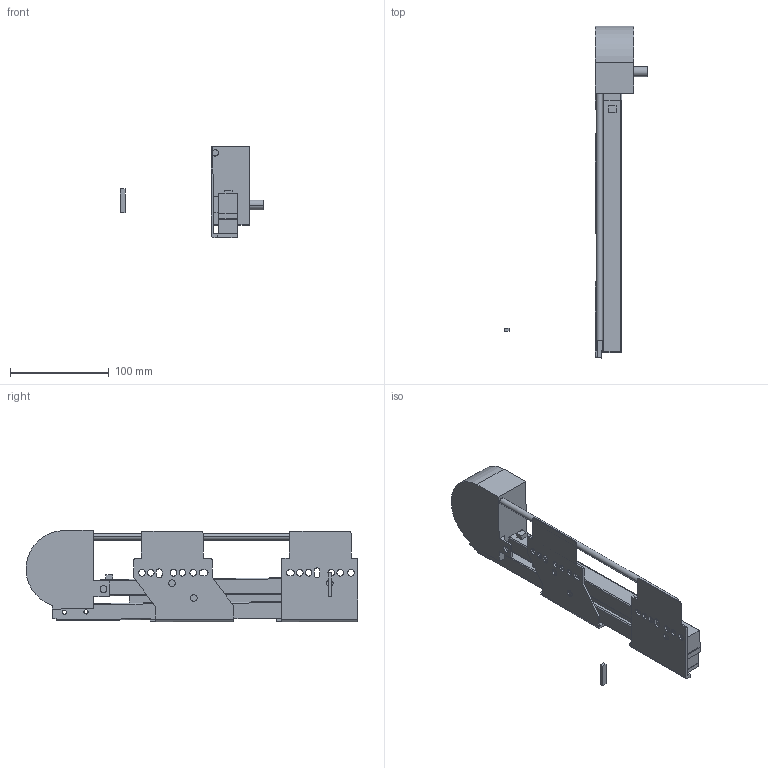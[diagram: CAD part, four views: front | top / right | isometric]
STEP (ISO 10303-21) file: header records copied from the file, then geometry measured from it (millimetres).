
FILE_DESCRIPTION (( 'STEP AP214' ), '1' );
FILE_NAME ('_IMOS_NOVA-Pro_Sensotronic_KS_P904_LI_NL-270_EB29mm.step', '2010-07-23T08:20:04', ( 'grass' ), ( '' ), 'SwSTEP 2.0', 'SolidWorks 2009', '' );
FILE_SCHEMA (( 'AUTOMOTIVE_DESIGN' ));
Length unit declared in the file: millimetre
Products named in the file (1): _IMOS_NOVA-Pro_Sensotronic_KS_P904_LI_NL-270_EB29mm
Bounding box: 145.8 x 336.45 x 92.58 mm (x, y, z)
Volume: 408479.9 mm3; surface area: 97882.1 mm2
Topology: 3 solids, 3 shells, 160 faces, 452 edges, 300 vertices
Faces by surface type: plane 96, cylinder 64
Entity records: 5323 total; most frequent: CARTESIAN_POINT 937, ORIENTED_EDGE 904, DIRECTION 893, EDGE_CURVE 452, LINE 317, VECTOR 317, VERTEX_POINT 300, AXIS2_PLACEMENT_3D 288
